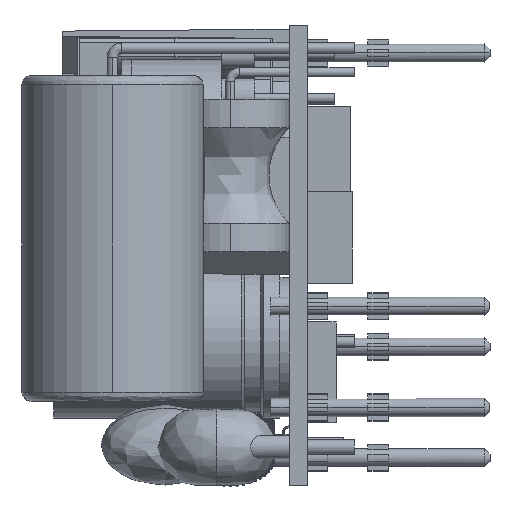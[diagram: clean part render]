
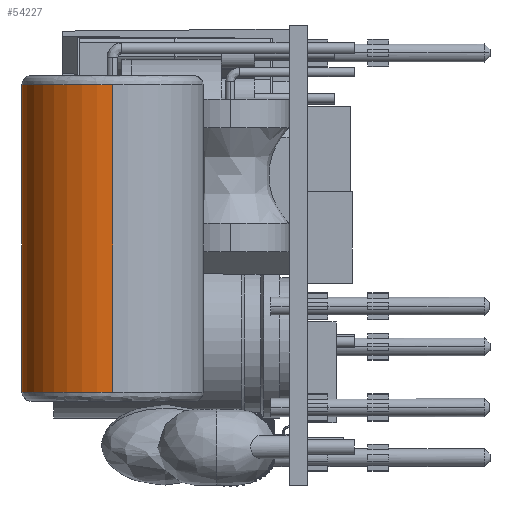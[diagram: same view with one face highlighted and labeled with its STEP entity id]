
A CAD part, left-side view. The second image highlights one B-rep face of the part: STEP entity #54227.
In plain terms, the highlighted cylindrical face has radius 5 mm (diameter 10 mm), a partial arc.
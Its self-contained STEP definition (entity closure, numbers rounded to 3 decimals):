
#4455 = EDGE_CURVE ( 'NONE', #84501, #28161, #80992, .T. ) ;
#4629 = VECTOR ( 'NONE', #61962, 1000. ) ;
#5607 = DIRECTION ( 'NONE',  ( -1., 0., 0. ) ) ;
#7294 = AXIS2_PLACEMENT_3D ( 'NONE', #85557, #45830, #5607 ) ;
#9048 = CARTESIAN_POINT ( 'NONE',  ( 309.071, 10.75, -282.221 ) ) ;
#13635 = DIRECTION ( 'NONE',  ( 0., 0., 1. ) ) ;
#13979 = AXIS2_PLACEMENT_3D ( 'NONE', #70459, #30457, #77140 ) ;
#16011 = ORIENTED_EDGE ( 'NONE', *, *, #62488, .T. ) ;
#23443 = VERTEX_POINT ( 'NONE', #32812 ) ;
#24147 = DIRECTION ( 'NONE',  ( 0., 0., -1. ) ) ;
#24973 = VERTEX_POINT ( 'NONE', #54112 ) ;
#25265 = CYLINDRICAL_SURFACE ( 'NONE', #67606, 5. ) ;
#26489 = CIRCLE ( 'NONE', #58841, 5. ) ;
#28161 = VERTEX_POINT ( 'NONE', #52030 ) ;
#30457 = DIRECTION ( 'NONE',  ( 0., 0., 1. ) ) ;
#32812 = CARTESIAN_POINT ( 'NONE',  ( 319.071, 10.75, -282.721 ) ) ;
#45830 = DIRECTION ( 'NONE',  ( 0., 0., -1. ) ) ;
#50385 = DIRECTION ( 'NONE',  ( -1., 0., 0. ) ) ;
#50387 = VERTEX_POINT ( 'NONE', #62407 ) ;
#52013 = EDGE_CURVE ( 'NONE', #24973, #28161, #86485, .T. ) ;
#52030 = CARTESIAN_POINT ( 'NONE',  ( 309.071, 10.75, -299.721 ) ) ;
#52498 = CIRCLE ( 'NONE', #13979, 5. ) ;
#53943 = DIRECTION ( 'NONE',  ( -1., 0., 0. ) ) ;
#54112 = CARTESIAN_POINT ( 'NONE',  ( 309.071, 10.75, -282.721 ) ) ;
#54227 = ADVANCED_FACE ( 'NONE', ( #67090 ), #25265, .T. ) ;
#55265 = CARTESIAN_POINT ( 'NONE',  ( 319.071, 10.75, -282.221 ) ) ;
#55960 = DIRECTION ( 'NONE',  ( 0., 0., -1. ) ) ;
#56800 = DIRECTION ( 'NONE',  ( 0., 0., -1. ) ) ;
#57849 = ORIENTED_EDGE ( 'NONE', *, *, #4455, .T. ) ;
#58141 = LINE ( 'NONE', #55265, #4629 ) ;
#58841 = AXIS2_PLACEMENT_3D ( 'NONE', #64169, #24147, #70849 ) ;
#58978 = VERTEX_POINT ( 'NONE', #59417 ) ;
#59417 = CARTESIAN_POINT ( 'NONE',  ( 314.071, 15.75, -282.721 ) ) ;
#61720 = EDGE_CURVE ( 'NONE', #23443, #50387, #58141, .T. ) ;
#61962 = DIRECTION ( 'NONE',  ( 0., 0., -1. ) ) ;
#62407 = CARTESIAN_POINT ( 'NONE',  ( 319.071, 10.75, -299.721 ) ) ;
#62488 = EDGE_CURVE ( 'NONE', #24973, #58978, #84132, .T. ) ;
#64169 = CARTESIAN_POINT ( 'NONE',  ( 314.071, 10.75, -282.721 ) ) ;
#64694 = CARTESIAN_POINT ( 'NONE',  ( 314.071, 10.75, -299.721 ) ) ;
#65376 = EDGE_CURVE ( 'NONE', #58978, #23443, #26489, .T. ) ;
#67090 = FACE_OUTER_BOUND ( 'NONE', #86224, .T. ) ;
#67606 = AXIS2_PLACEMENT_3D ( 'NONE', #76515, #56800, #50385 ) ;
#68727 = ORIENTED_EDGE ( 'NONE', *, *, #70200, .T. ) ;
#70200 = EDGE_CURVE ( 'NONE', #50387, #84501, #52498, .T. ) ;
#70459 = CARTESIAN_POINT ( 'NONE',  ( 314.071, 10.75, -299.721 ) ) ;
#70849 = DIRECTION ( 'NONE',  ( -1., 0., 0. ) ) ;
#71385 = ORIENTED_EDGE ( 'NONE', *, *, #65376, .T. ) ;
#72240 = ORIENTED_EDGE ( 'NONE', *, *, #52013, .F. ) ;
#74901 = ORIENTED_EDGE ( 'NONE', *, *, #61720, .T. ) ;
#76515 = CARTESIAN_POINT ( 'NONE',  ( 314.071, 10.75, -282.221 ) ) ;
#77140 = DIRECTION ( 'NONE',  ( -1., 0., 0. ) ) ;
#78951 = AXIS2_PLACEMENT_3D ( 'NONE', #64694, #13635, #53943 ) ;
#80191 = CARTESIAN_POINT ( 'NONE',  ( 314.071, 15.75, -299.721 ) ) ;
#80992 = CIRCLE ( 'NONE', #78951, 5. ) ;
#84132 = CIRCLE ( 'NONE', #7294, 5. ) ;
#84387 = VECTOR ( 'NONE', #55960, 1000. ) ;
#84501 = VERTEX_POINT ( 'NONE', #80191 ) ;
#85557 = CARTESIAN_POINT ( 'NONE',  ( 314.071, 10.75, -282.721 ) ) ;
#86224 = EDGE_LOOP ( 'NONE', ( #16011, #71385, #74901, #68727, #57849, #72240 ) ) ;
#86485 = LINE ( 'NONE', #9048, #84387 ) ;
